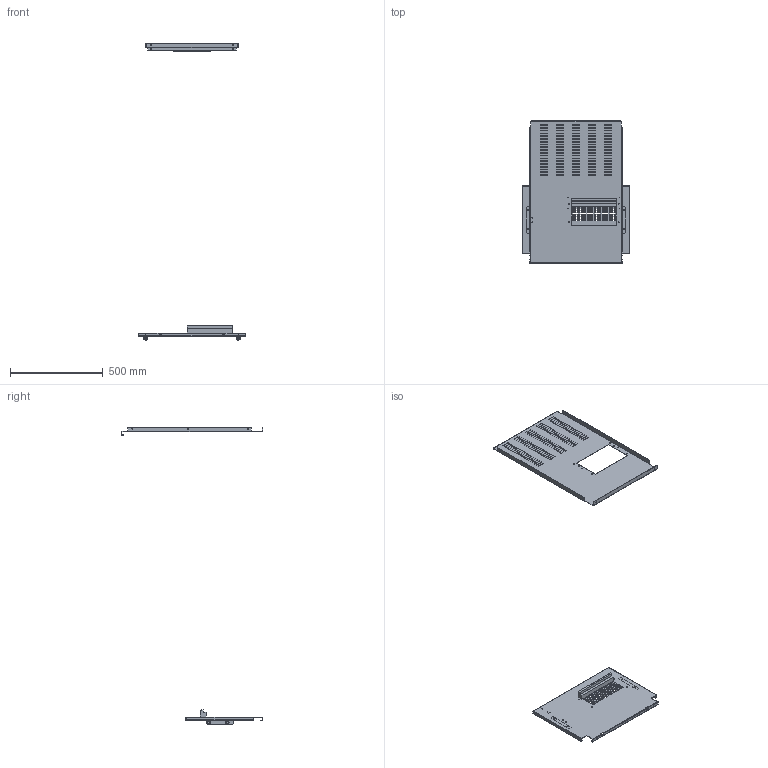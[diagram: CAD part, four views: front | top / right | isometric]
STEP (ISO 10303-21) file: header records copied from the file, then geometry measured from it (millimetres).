
FILE_DESCRIPTION(('CAx-IF Rec.Pracs.---Model Styling and Organization---1.2---2011-12-15','CAx-IF Rec.Pracs.---Geometric and Assembly Validation Properties---4.1---2014-06-16','CAx-IF Rec.Pracs.---PMI Polyline Presentation---2.0---2013-05-24'),'2;1');
FILE_NAME('R5M2UBFS8 (2000x600x800).stp','2021-05-05T12:07:59+03:00',(''),(''),'STEP Interface 4.4 by CT CoreTechnologie','3D_Evolution4.4 by CT CoreTechnologie','');
FILE_SCHEMA(('AUTOMOTIVE_DESIGN { 1 0 10303 214 1 1 1 1 }'));
Length unit declared in the file: millimetre
Products named in the file (8): R5M2UBFS8; M8-DIN 6923 (CM100800)_thread; RB.0878.00.00.0_-00; RB.0837.00.00.0_-00; RB.0837.00.00.0_-01; RB.0792.00.00.0_-00; M8x16-DIN 6921_thread; RB.0876.00.00.0_-01
Assembly tree (13 placements, depth 2):
  R5M2UBFS8
    M8-DIN 6923 (CM100800)_thread  x4
    RB.0878.00.00.0_-00
    RB.0837.00.00.0_-00
    RB.0837.00.00.0_-01
    RB.0792.00.00.0_-00
    M8x16-DIN 6921_thread  x4
    RB.0876.00.00.0_-01
Bounding box: 580 x 765.5 x 1607 mm (x, y, z)
Surface area: 1416326.7 mm2 (no closed solid volume)
Topology: 0 solids, 13 shells, 1220 faces, 3233 edges, 2037 vertices
Faces by surface type: plane 778, bspline 264, cylinder 178
Entity records: 32096 total; most frequent: CARTESIAN_POINT 6796, ORIENTED_EDGE 5278, DIRECTION 4661, EDGE_CURVE 2639, VECTOR 2257, LINE 2257, VERTEX_POINT 1713, EDGE_LOOP 1304
